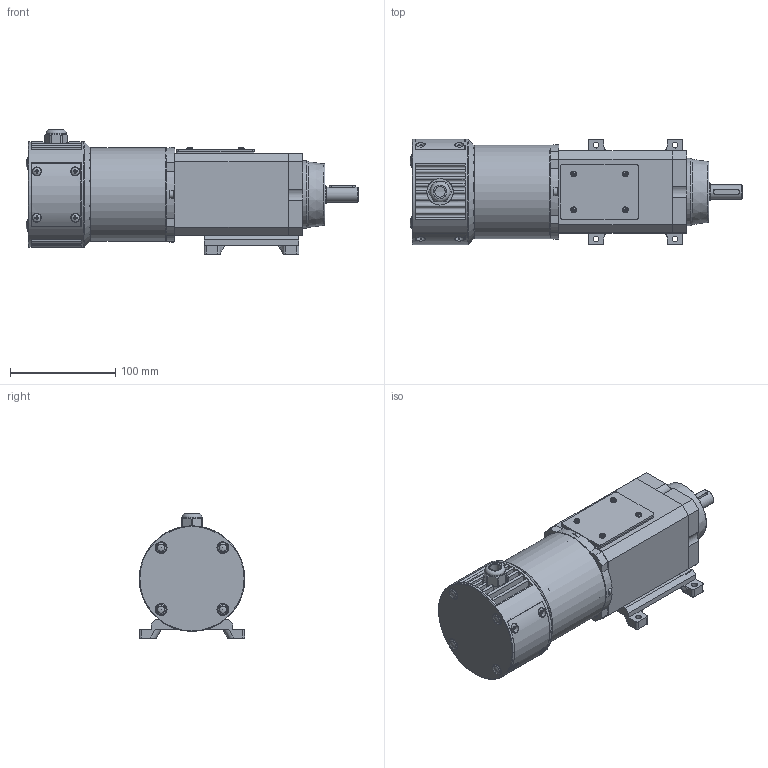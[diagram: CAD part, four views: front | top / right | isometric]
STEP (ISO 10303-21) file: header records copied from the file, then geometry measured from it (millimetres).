
FILE_DESCRIPTION(/* description */ ('Vite svasata'),/* implementation_level */ '2;1');
FILE_NAME(/* name */ 'C:\Users\giuseppe.caruso.MINIMOTOR\Desktop\PAC MP3N 10,27 B3.stp',/* time_stamp */ '2014-10-14T17:08:47+02:00',/* author */ ('giuseppe.caruso'),/* organization */ (''),/* preprocessor_version */ 'ST-DEVELOPER v15.6',/* originating_system */ 'Autodesk Inventor 2015',/* authorisation */ '');
FILE_SCHEMA (('CONFIG_CONTROL_DESIGN'));
Products named in the file (47): VSE516; VCE518; VTC306; VCE420; VTC408; VCE412; SPN010; SRD020; CPR011; CUR008-5; CUR008-4; CUR008-3; CUR008-2; CUR008-1; CUR008; ING224; CUS017-9; CUS017-8; CUS017-7; CUS017-6; CUS017-5; CUS017-4; CUS017-3; CUS017-2; CUS017-1; CUS017; CRT013; ASA017; ASF047; OR001; CHI005; CPR011Z19; GRN016; TPP009; TRG072; STT033; MGN001S; MGN001N; STT033C; CUF045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
Assembly tree (77 placements, depth 4):
  PAC MP3N 10,27 B3
    VSE516  x4
    VCE518  x4
    VTC306  x4
    VCE420  x4
    VTC408  x8
    VCE412  x8
    SPN010
    SRD020
    CPR011Z19
      CPR011
      CUR008
        CUR008-5
        CUR008-4
        CUR008-3
        CUR008-2
        CUR008-1
      ING224
      CUS017
        CUS017-9
        CUS017-8
        CUS017-7
        CUS017-6
        CUS017-5
        CUS017-4
        CUS017-3
        CUS017-2
        CUS017-1
      CRT013
      ASA017
      ASF047
      OR001
      CHI005
    GRN016
    TPP009
    TRG072
    STT033C
      STT033
      MGN001S
      MGN001N
    CUF045
    CUF055
    GRN025  x2
    CUF051-CSA  x2
    BOC001
    TPP008  x4
    PIE010
Bounding box: 315 x 100 x 118 mm (x, y, z)
Volume: 879206.5 mm3; surface area: 359918.1 mm2
Topology: 80 solids, 80 shells, 2772 faces, 7045 edges, 4558 vertices
Faces by surface type: plane 1483, cylinder 815, cone 284, torus 138, bspline 28, sphere 24
Full cylindrical faces by diameter (mm): 1.6 x1, 1.7 x2, 2.1 x4, 2.459 x5, 2.5 x2, 2.6 x1, 2.729 x4, 3 x6, 3.242 x29, 3.5 x8, 4 x35, 4.134 x9, 4.2 x4, 4.5 x24, 5 x8, 5.5 x16, 6.647 x1, 6.85 x4, 7 x12, 7.5 x4, 7.6 x1, 8 x8, 8.4 x4, 8.5 x18, 9 x4, 9.64 x4, 9.85 x4, 10 x7, 12 x12, 14 x1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
Entity records: 57933 total; most frequent: CARTESIAN_POINT 12091, DIRECTION 9507, ORIENTED_EDGE 8588, EDGE_CURVE 4294, AXIS2_PLACEMENT_3D 3478, VERTEX_POINT 2988, LINE 2551, VECTOR 2551
